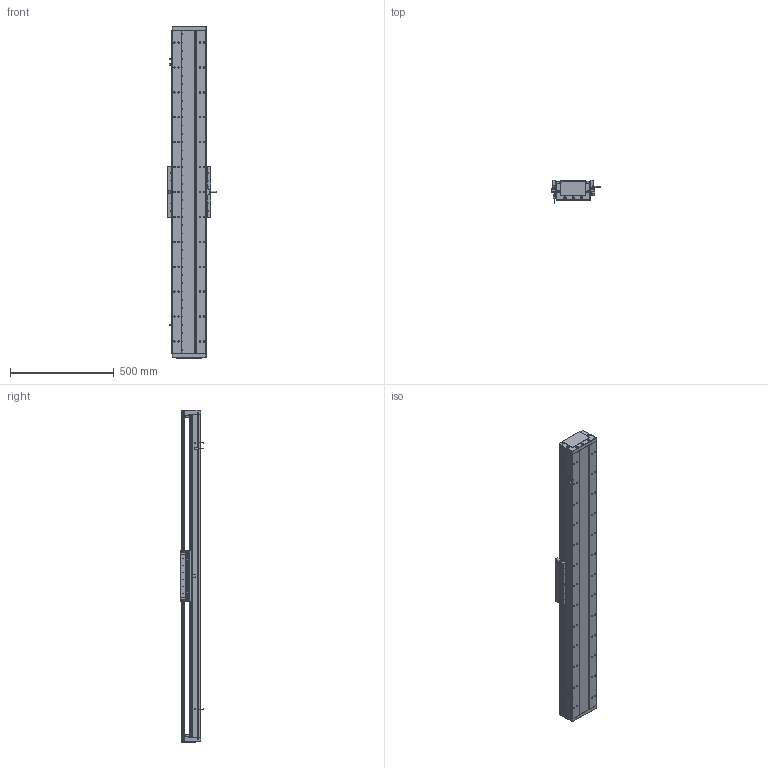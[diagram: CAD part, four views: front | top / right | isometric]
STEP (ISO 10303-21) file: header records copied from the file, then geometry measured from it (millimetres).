
FILE_DESCRIPTION (( 'STEP AP203' ), '1' );
FILE_NAME ('DA-C165-C3-T1260-C010-0.2 直线电机.STEP', '2023-06-13T08:44:24', ( '微软用户' ), ( '微软中国' ), 'SwSTEP 2.0', 'SolidWorks 2019', '' );
FILE_SCHEMA (( 'CONFIG_CONTROL_DESIGN' ));
Length unit declared in the file: millimetre
Products named in the file (15): 复件 XD-U-02L 磁栅尺^DA-C165-C3-T-C010-0.2-N 直线电机_T; 葩璃 CKM03-W075-C1C2-TP-3.0^DA-C165-C3-T-C010-0.2-N 眻盄萇儂; 复件 DA165-DG-H-N-00 端盖^DA-C165-C3-T-C010-0.2-N 直线电机; 复件 六角薄螺母 M3^DA-C165-C3-T-C010-0.2-N 直线电机_GB_FASTENER_NUT_STNAB M3-C; 复件 CU165 底座^IU-CU165-L 底座导轨_L1560; DA-C165-C3-T1260-C010-0.2 眻盄萇儂; 复件 DA165-GYP-00 光电感应片^DA-C165-C3-T-C010-0.2-N 直线电机; 复件 DMA-010-0.2 读数头^DA-C165-C3-T-C010-0.2-N 直线电机; 复件 DA165-T-002-00 盖板^DA-C165-C3-T-C010-0.2-N 直线电机_0840-002-00; IU-CU165-L 菁釱絳寢; 复件 DA95-HXJ-00 缓冲橡胶^DA-C165-C3-T-C010-0.2-N 直线电机; 葩璃 PM-T45^DA-C165-C3-T-C010-0.2-N 眻盄萇儂; 珨极趙賑雄怢啣C3-wf; 葩璃 CKM01-W075-TRL^DA-C165-C3-T-C010-0.2-N 眻盄萇儂; 葩璃 DA95-GT-T-00^IU-CU165-L 菁釱絳寢_T
Assembly tree (30 placements, depth 3):
  DA-C165-C3-T1260-C010-0.2 眻盄萇儂
    IU-CU165-L 菁釱絳寢
      复件 CU165 底座^IU-CU165-L 底座导轨_L1560
      葩璃 DA95-GT-T-00^IU-CU165-L 菁釱絳寢_T  x4
    复件 DA165-DG-H-N-00 端盖^DA-C165-C3-T-C010-0.2-N 直线电机  x2
    复件 DA95-HXJ-00 缓冲橡胶^DA-C165-C3-T-C010-0.2-N 直线电机  x4
    复件 DA165-T-002-00 盖板^DA-C165-C3-T-C010-0.2-N 直线电机_0840-002-00
    复件 XD-U-02L 磁栅尺^DA-C165-C3-T-C010-0.2-N 直线电机_T
    葩璃 PM-T45^DA-C165-C3-T-C010-0.2-N 眻盄萇儂  x3
    葩璃 CKM01-W075-TRL^DA-C165-C3-T-C010-0.2-N 眻盄萇儂
    复件 DA165-GYP-00 光电感应片^DA-C165-C3-T-C010-0.2-N 直线电机
    复件 DMA-010-0.2 读数头^DA-C165-C3-T-C010-0.2-N 直线电机
    葩璃 CKM03-W075-C1C2-TP-3.0^DA-C165-C3-T-C010-0.2-N 眻盄萇儂
    复件 六角薄螺母 M3^DA-C165-C3-T-C010-0.2-N 直线电机_GB_FASTENER_NUT_STNAB M3-C  x8
    珨极趙賑雄怢啣C3-wf
Bounding box: 233 x 111.45 x 1600 mm (x, y, z)
Volume: 11263979.7 mm3; surface area: 3112627.7 mm2
Topology: 68 solids, 118 shells, 3811 faces, 10464 edges, 6534 vertices
Faces by surface type: cylinder 2010, plane 1191, cone 552, torus 54, sphere 4
Entity records: 117981 total; most frequent: CARTESIAN_POINT 29404, DIRECTION 18260, ORIENTED_EDGE 17982, EDGE_CURVE 8991, AXIS2_PLACEMENT_3D 6950, VERTEX_POINT 5822, VECTOR 4360, LINE 4360
